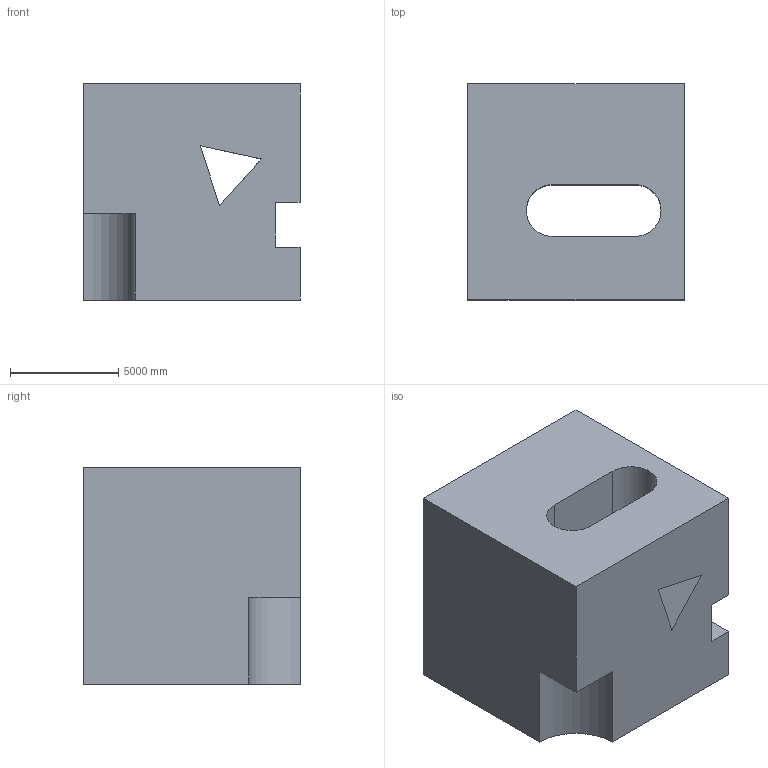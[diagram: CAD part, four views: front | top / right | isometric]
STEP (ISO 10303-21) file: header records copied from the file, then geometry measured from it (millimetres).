
FILE_DESCRIPTION (( 'STEP AP203' ), '1' );
FILE_NAME ('341.STEP', '2022-07-28T14:24:38', ( 'user' ), ( '' ), 'SwSTEP 2.0', 'SolidWorks 2021', '' );
FILE_SCHEMA (( 'CONFIG_CONTROL_DESIGN' ));
Length unit declared in the file: centimetre
Products named in the file (1): 341
Bounding box: 10000 x 10000 x 10000 mm (x, y, z)
Volume: 794363547495.6 mm3; surface area: 786545069.5 mm2
Topology: 1 solids, 1 shells, 24 faces, 75 edges, 50 vertices
Faces by surface type: plane 20, cylinder 4
Entity records: 922 total; most frequent: CARTESIAN_POINT 162, ORIENTED_EDGE 150, DIRECTION 131, EDGE_CURVE 75, VECTOR 61, LINE 61, VERTEX_POINT 50, AXIS2_PLACEMENT_3D 35
